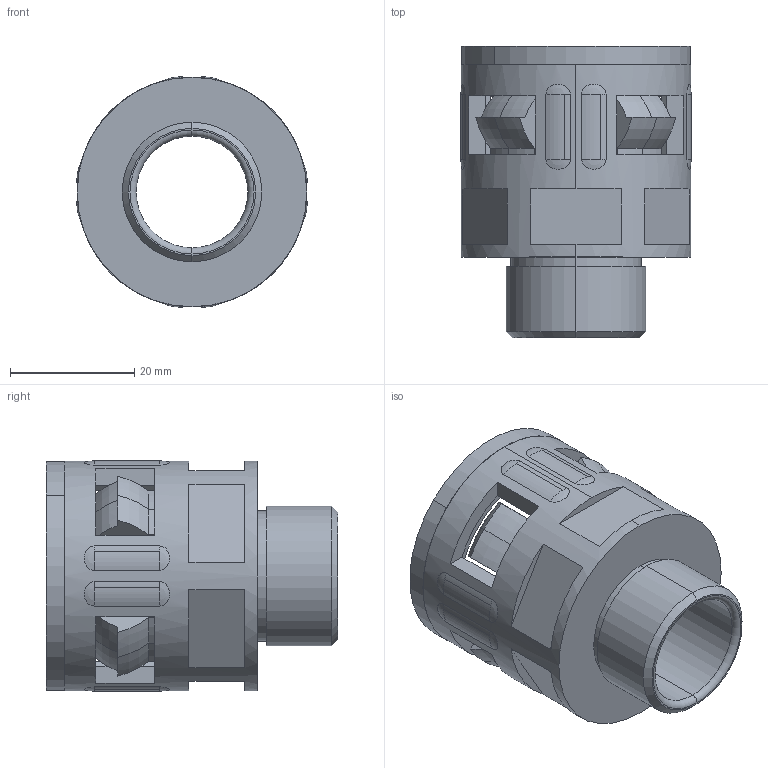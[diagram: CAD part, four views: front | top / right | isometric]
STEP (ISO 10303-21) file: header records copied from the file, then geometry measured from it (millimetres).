
FILE_DESCRIPTION (( 'STEP AP203' ), '1' );
FILE_NAME ('WQG-P16-AD28.5.STEP', '2020-03-12T07:16:25', ( '' ), ( '' ), 'SwSTEP 2.0', 'SolidWorks 2016', '' );
FILE_SCHEMA (( 'CONFIG_CONTROL_DESIGN' ));
Length unit declared in the file: millimetre
Products named in the file (4): WQG-P16-AD28.5-01; NSK-AD28.5; WQG-P16-AD28.5; GFD-AD28.5
Assembly tree (3 placements, depth 2):
  WQG-P16-AD28.5
    WQG-P16-AD28.5-01
    GFD-AD28.5
    NSK-AD28.5
Bounding box: 37.1 x 47 x 37.1 mm (x, y, z)
Volume: 14991.7 mm3; surface area: 17342.2 mm2
Topology: 3 solids, 3 shells, 299 faces, 818 edges, 523 vertices
Faces by surface type: plane 127, cylinder 73, cone 46, torus 37, sphere 16
Entity records: 10342 total; most frequent: CARTESIAN_POINT 2318, DIRECTION 1680, ORIENTED_EDGE 1572, EDGE_CURVE 786, AXIS2_PLACEMENT_3D 661, VERTEX_POINT 507, LINE 358, VECTOR 358
